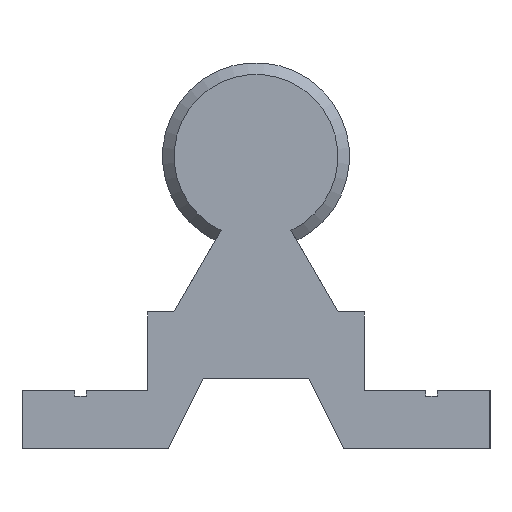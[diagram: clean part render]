
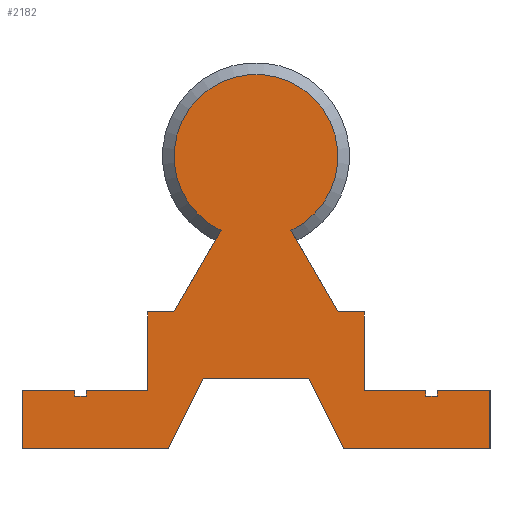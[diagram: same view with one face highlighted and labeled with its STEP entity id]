
A CAD part, left-side view. The second image highlights one B-rep face of the part: STEP entity #2182.
In plain terms, the highlighted planar face has unit normal (-1, 0, 0).
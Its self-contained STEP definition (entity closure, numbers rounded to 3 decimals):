
#48=LINE('',#3229,#230);
#49=LINE('',#3231,#231);
#50=LINE('',#3233,#232);
#51=LINE('',#3235,#233);
#52=LINE('',#3237,#234);
#53=LINE('',#3239,#235);
#54=LINE('',#3241,#236);
#55=LINE('',#3243,#237);
#56=LINE('',#3245,#238);
#57=LINE('',#3247,#239);
#58=LINE('',#3249,#240);
#59=LINE('',#3251,#241);
#60=LINE('',#3253,#242);
#61=LINE('',#3255,#243);
#62=LINE('',#3257,#244);
#63=LINE('',#3259,#245);
#64=LINE('',#3261,#246);
#65=LINE('',#3263,#247);
#66=LINE('',#3265,#248);
#67=LINE('',#3267,#249);
#68=LINE('',#3269,#250);
#69=LINE('',#3271,#251);
#70=LINE('',#3272,#252);
#230=VECTOR('',#2559,10.);
#231=VECTOR('',#2560,10.);
#232=VECTOR('',#2561,10.);
#233=VECTOR('',#2562,10.);
#234=VECTOR('',#2563,10.);
#235=VECTOR('',#2564,10.);
#236=VECTOR('',#2565,10.);
#237=VECTOR('',#2566,10.);
#238=VECTOR('',#2567,10.);
#239=VECTOR('',#2568,10.);
#240=VECTOR('',#2569,10.);
#241=VECTOR('',#2570,10.);
#242=VECTOR('',#2571,10.);
#243=VECTOR('',#2572,10.);
#244=VECTOR('',#2573,10.);
#245=VECTOR('',#2574,10.);
#246=VECTOR('',#2575,10.);
#247=VECTOR('',#2576,10.);
#248=VECTOR('',#2577,10.);
#249=VECTOR('',#2578,10.);
#250=VECTOR('',#2579,10.);
#251=VECTOR('',#2580,10.);
#252=VECTOR('',#2581,10.);
#412=PLANE('',#2312);
#486=FACE_OUTER_BOUND('',#594,.T.);
#594=EDGE_LOOP('',(#1467,#1468,#1469,#1470,#1471,#1472,#1473,#1474,#1475,
#1476,#1477,#1478,#1479,#1480,#1481,#1482,#1483,#1484,#1485,#1486,#1487,
#1488,#1489,#1490));
#717=CIRCLE('',#2310,7.);
#886=VERTEX_POINT('',#3216);
#887=VERTEX_POINT('',#3220);
#889=VERTEX_POINT('',#3228);
#890=VERTEX_POINT('',#3230);
#891=VERTEX_POINT('',#3232);
#892=VERTEX_POINT('',#3234);
#893=VERTEX_POINT('',#3236);
#894=VERTEX_POINT('',#3238);
#895=VERTEX_POINT('',#3240);
#896=VERTEX_POINT('',#3242);
#897=VERTEX_POINT('',#3244);
#898=VERTEX_POINT('',#3246);
#899=VERTEX_POINT('',#3248);
#900=VERTEX_POINT('',#3250);
#901=VERTEX_POINT('',#3252);
#902=VERTEX_POINT('',#3254);
#903=VERTEX_POINT('',#3256);
#904=VERTEX_POINT('',#3258);
#905=VERTEX_POINT('',#3260);
#906=VERTEX_POINT('',#3262);
#907=VERTEX_POINT('',#3264);
#908=VERTEX_POINT('',#3266);
#909=VERTEX_POINT('',#3268);
#910=VERTEX_POINT('',#3270);
#1114=EDGE_CURVE('',#886,#887,#717,.T.);
#1117=EDGE_CURVE('',#887,#889,#48,.T.);
#1118=EDGE_CURVE('',#890,#886,#49,.T.);
#1119=EDGE_CURVE('',#891,#890,#50,.T.);
#1120=EDGE_CURVE('',#892,#891,#51,.T.);
#1121=EDGE_CURVE('',#893,#892,#52,.T.);
#1122=EDGE_CURVE('',#894,#893,#53,.T.);
#1123=EDGE_CURVE('',#895,#894,#54,.T.);
#1124=EDGE_CURVE('',#896,#895,#55,.T.);
#1125=EDGE_CURVE('',#897,#896,#56,.T.);
#1126=EDGE_CURVE('',#898,#897,#57,.T.);
#1127=EDGE_CURVE('',#899,#898,#58,.T.);
#1128=EDGE_CURVE('',#900,#899,#59,.T.);
#1129=EDGE_CURVE('',#901,#900,#60,.T.);
#1130=EDGE_CURVE('',#902,#901,#61,.T.);
#1131=EDGE_CURVE('',#903,#902,#62,.T.);
#1132=EDGE_CURVE('',#904,#903,#63,.T.);
#1133=EDGE_CURVE('',#905,#904,#64,.T.);
#1134=EDGE_CURVE('',#906,#905,#65,.T.);
#1135=EDGE_CURVE('',#907,#906,#66,.T.);
#1136=EDGE_CURVE('',#908,#907,#67,.T.);
#1137=EDGE_CURVE('',#909,#908,#68,.T.);
#1138=EDGE_CURVE('',#910,#909,#69,.T.);
#1139=EDGE_CURVE('',#889,#910,#70,.T.);
#1467=ORIENTED_EDGE('',*,*,#1117,.F.);
#1468=ORIENTED_EDGE('',*,*,#1114,.F.);
#1469=ORIENTED_EDGE('',*,*,#1118,.F.);
#1470=ORIENTED_EDGE('',*,*,#1119,.F.);
#1471=ORIENTED_EDGE('',*,*,#1120,.F.);
#1472=ORIENTED_EDGE('',*,*,#1121,.F.);
#1473=ORIENTED_EDGE('',*,*,#1122,.F.);
#1474=ORIENTED_EDGE('',*,*,#1123,.F.);
#1475=ORIENTED_EDGE('',*,*,#1124,.F.);
#1476=ORIENTED_EDGE('',*,*,#1125,.F.);
#1477=ORIENTED_EDGE('',*,*,#1126,.F.);
#1478=ORIENTED_EDGE('',*,*,#1127,.F.);
#1479=ORIENTED_EDGE('',*,*,#1128,.F.);
#1480=ORIENTED_EDGE('',*,*,#1129,.F.);
#1481=ORIENTED_EDGE('',*,*,#1130,.F.);
#1482=ORIENTED_EDGE('',*,*,#1131,.F.);
#1483=ORIENTED_EDGE('',*,*,#1132,.F.);
#1484=ORIENTED_EDGE('',*,*,#1133,.F.);
#1485=ORIENTED_EDGE('',*,*,#1134,.F.);
#1486=ORIENTED_EDGE('',*,*,#1135,.F.);
#1487=ORIENTED_EDGE('',*,*,#1136,.F.);
#1488=ORIENTED_EDGE('',*,*,#1137,.F.);
#1489=ORIENTED_EDGE('',*,*,#1138,.F.);
#1490=ORIENTED_EDGE('',*,*,#1139,.F.);
#2182=ADVANCED_FACE('',(#486),#412,.F.);
#2310=AXIS2_PLACEMENT_3D('',#3221,#2553,#2554);
#2312=AXIS2_PLACEMENT_3D('',#3227,#2557,#2558);
#2553=DIRECTION('center_axis',(1.,0.,0.));
#2554=DIRECTION('ref_axis',(0.,1.,0.));
#2557=DIRECTION('center_axis',(1.,0.,0.));
#2558=DIRECTION('ref_axis',(0.,0.,-1.));
#2559=DIRECTION('',(0.,-0.5,-0.866));
#2560=DIRECTION('',(0.,-0.5,0.866));
#2561=DIRECTION('',(0.,-1.,0.));
#2562=DIRECTION('',(0.,0.,1.));
#2563=DIRECTION('',(0.,-1.,0.));
#2564=DIRECTION('',(0.,0.,1.));
#2565=DIRECTION('',(0.,-1.,0.));
#2566=DIRECTION('',(0.,0.,-1.));
#2567=DIRECTION('',(0.,-1.,0.));
#2568=DIRECTION('',(0.,0.,1.));
#2569=DIRECTION('',(0.,1.,0.));
#2570=DIRECTION('',(0.,0.447,-0.894));
#2571=DIRECTION('',(0.,1.,0.));
#2572=DIRECTION('',(0.,0.447,0.894));
#2573=DIRECTION('',(0.,1.,0.));
#2574=DIRECTION('',(0.,0.,-1.));
#2575=DIRECTION('',(0.,-1.,0.));
#2576=DIRECTION('',(0.,0.,1.));
#2577=DIRECTION('',(0.,-1.,0.));
#2578=DIRECTION('',(0.,0.,-1.));
#2579=DIRECTION('',(0.,-1.,0.));
#2580=DIRECTION('',(0.,0.,-1.));
#2581=DIRECTION('',(0.,-1.,0.));
#3216=CARTESIAN_POINT('',(0.,2.986,18.669));
#3220=CARTESIAN_POINT('',(0.,-2.986,18.669));
#3221=CARTESIAN_POINT('Origin',(0.,0.,25.));
#3227=CARTESIAN_POINT('Origin',(0.,0.,25.));
#3228=CARTESIAN_POINT('',(0.,-7.009,11.7));
#3229=CARTESIAN_POINT('',(0.,-1.492,21.255));
#3230=CARTESIAN_POINT('',(0.,7.009,11.7));
#3231=CARTESIAN_POINT('',(0.,3.253,18.205));
#3232=CARTESIAN_POINT('',(0.,9.25,11.7));
#3233=CARTESIAN_POINT('',(0.,9.25,11.7));
#3234=CARTESIAN_POINT('',(0.,9.25,5.));
#3235=CARTESIAN_POINT('',(0.,9.25,5.));
#3236=CARTESIAN_POINT('',(0.,14.5,5.));
#3237=CARTESIAN_POINT('',(0.,14.5,5.));
#3238=CARTESIAN_POINT('',(0.,14.5,4.5));
#3239=CARTESIAN_POINT('',(0.,14.5,4.5));
#3240=CARTESIAN_POINT('',(0.,15.5,4.5));
#3241=CARTESIAN_POINT('',(0.,15.5,4.5));
#3242=CARTESIAN_POINT('',(0.,15.5,5.));
#3243=CARTESIAN_POINT('',(0.,15.5,5.));
#3244=CARTESIAN_POINT('',(0.,20.,5.));
#3245=CARTESIAN_POINT('',(0.,20.,5.));
#3246=CARTESIAN_POINT('',(0.,20.,0.));
#3247=CARTESIAN_POINT('',(0.,20.,0.));
#3248=CARTESIAN_POINT('',(0.,7.5,0.));
#3249=CARTESIAN_POINT('',(0.,7.5,0.));
#3250=CARTESIAN_POINT('',(0.,4.5,6.));
#3251=CARTESIAN_POINT('',(0.,4.5,6.));
#3252=CARTESIAN_POINT('',(0.,-4.5,6.));
#3253=CARTESIAN_POINT('',(0.,-4.5,6.));
#3254=CARTESIAN_POINT('',(0.,-7.5,0.));
#3255=CARTESIAN_POINT('',(0.,-7.5,0.));
#3256=CARTESIAN_POINT('',(0.,-20.,0.));
#3257=CARTESIAN_POINT('',(0.,-20.,0.));
#3258=CARTESIAN_POINT('',(0.,-20.,5.));
#3259=CARTESIAN_POINT('',(0.,-20.,5.));
#3260=CARTESIAN_POINT('',(0.,-15.5,5.));
#3261=CARTESIAN_POINT('',(0.,-15.5,5.));
#3262=CARTESIAN_POINT('',(0.,-15.5,4.5));
#3263=CARTESIAN_POINT('',(0.,-15.5,4.5));
#3264=CARTESIAN_POINT('',(0.,-14.5,4.5));
#3265=CARTESIAN_POINT('',(0.,-14.5,4.5));
#3266=CARTESIAN_POINT('',(0.,-14.5,5.));
#3267=CARTESIAN_POINT('',(0.,-14.5,5.));
#3268=CARTESIAN_POINT('',(0.,-9.25,5.));
#3269=CARTESIAN_POINT('',(0.,-9.25,5.));
#3270=CARTESIAN_POINT('',(0.,-9.25,11.7));
#3271=CARTESIAN_POINT('',(0.,-9.25,11.7));
#3272=CARTESIAN_POINT('',(0.,-7.009,11.7));
